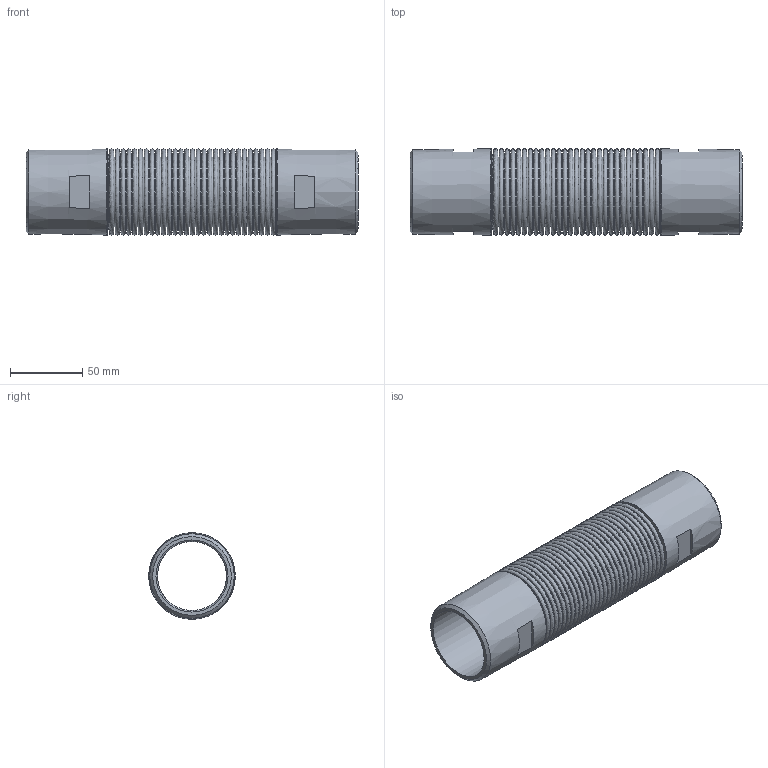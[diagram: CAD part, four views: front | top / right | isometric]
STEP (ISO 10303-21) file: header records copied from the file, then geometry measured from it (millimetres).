
FILE_DESCRIPTION (( 'STEP AP214' ), '1' );
FILE_NAME ('97079999.STEP', '2024-09-06T14:02:50', ( '' ), ( '' ), 'SwSTEP 2.0', 'SolidWorks 2021', '' );
FILE_SCHEMA (( 'AUTOMOTIVE_DESIGN' ));
Length unit declared in the file: millimetre
Products named in the file (1): 97079999
Bounding box: 230 x 59.8 x 59.8 mm (x, y, z)
Volume: 100315.6 mm3; surface area: 192342.8 mm2
Topology: 3 solids, 3 shells, 273 faces, 617 edges, 360 vertices
Faces by surface type: bspline 122, cone 119, plane 26, cylinder 6
Full cylindrical faces by diameter (mm): 50 x2, 50.8 x2, 51.2 x1, 56.8 x1
Entity records: 12361 total; most frequent: CARTESIAN_POINT 5090, DIRECTION 834, ORIENTED_EDGE 586, EDGE_LOOP 538, AXIS2_PLACEMENT_3D 413, FACE_OUTER_BOUND 401, EDGE_CURVE 293, VERTEX_POINT 285
